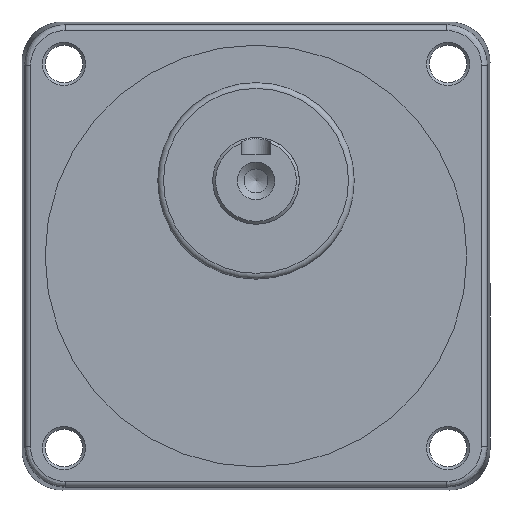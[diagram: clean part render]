
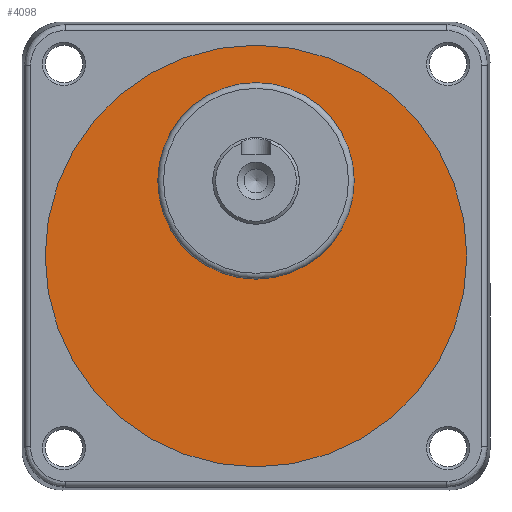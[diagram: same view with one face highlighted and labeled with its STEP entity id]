
A CAD part, front view. The second image highlights one B-rep face of the part: STEP entity #4098.
In plain terms, the highlighted planar face has unit normal (0, -1, 0).
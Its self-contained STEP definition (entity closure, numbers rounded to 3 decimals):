
#3437=CARTESIAN_POINT('',(17.0,-34.5,13.));
#3438=VERTEX_POINT('',#3437);
#3439=CARTESIAN_POINT('',(0.,-34.5,13.0));
#3440=DIRECTION('',(0.0,1.0,0.0));
#3441=DIRECTION('',(-1.0,0.0,0.0));
#3442=AXIS2_PLACEMENT_3D('',#3439,#3440,#3441);
#3443=CIRCLE('',#3442,17.0);
#3444=EDGE_CURVE('',#3438,#3438,#3443,.T.);
#4072=CARTESIAN_POINT('',(36.5,-34.5,0.));
#4073=VERTEX_POINT('',#4072);
#4074=CARTESIAN_POINT('',(0.0,-34.5,0.0));
#4075=DIRECTION('',(0.0,-1.0,0.0));
#4076=DIRECTION('',(-1.0,0.0,0.0));
#4077=AXIS2_PLACEMENT_3D('',#4074,#4075,#4076);
#4078=CIRCLE('',#4077,36.5);
#4079=EDGE_CURVE('',#4073,#4073,#4078,.T.);
#4087=CARTESIAN_POINT('',(0.0,-34.5,0.0));
#4088=DIRECTION('',(0.0,1.0,0.0));
#4089=DIRECTION('',(0.0,0.0,1.0));
#4090=AXIS2_PLACEMENT_3D('',#4087,#4088,#4089);
#4091=PLANE('',#4090);
#4092=ORIENTED_EDGE('',*,*,#4079,.T.);
#4093=EDGE_LOOP('',(#4092));
#4094=FACE_OUTER_BOUND('',#4093,.T.);
#4095=ORIENTED_EDGE('',*,*,#3444,.T.);
#4096=EDGE_LOOP('',(#4095));
#4097=FACE_BOUND('',#4096,.T.);
#4098=ADVANCED_FACE('',(#4094,#4097),#4091,.F.);
